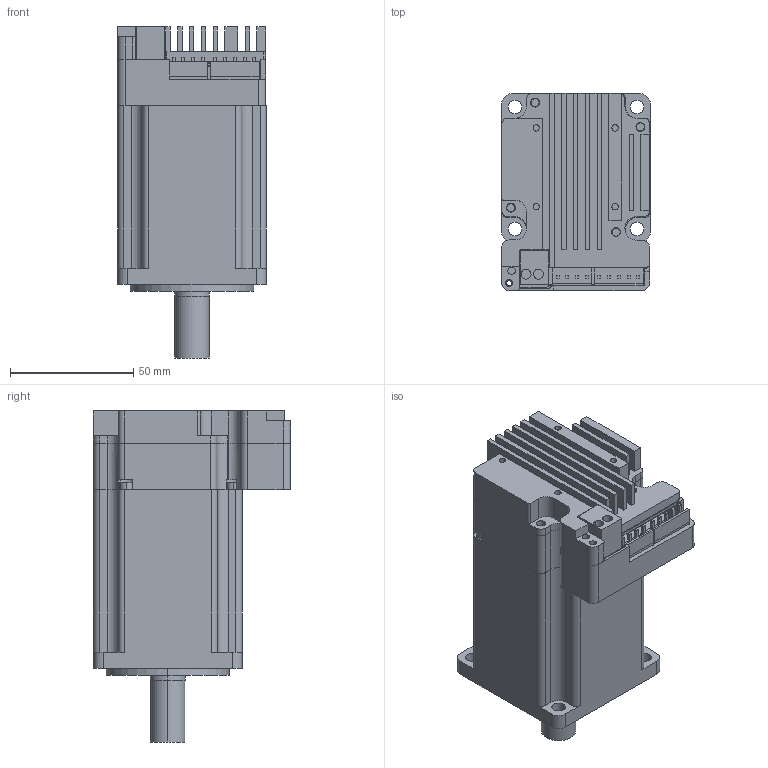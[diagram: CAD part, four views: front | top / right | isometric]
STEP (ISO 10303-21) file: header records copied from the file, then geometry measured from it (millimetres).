
FILE_DESCRIPTION (( 'STEP AP214' ), '1' );
FILE_NAME ('FC24P60400W_VH.STEP', '2025-05-16T02:21:31', ( 'shaun' ), ( '' ), 'SwSTEP 2.0', 'SolidWorks 2020', '' );
FILE_SCHEMA (( 'AUTOMOTIVE_DESIGN' ));
Length unit declared in the file: millimetre
Products named in the file (7): FC24P60400W_VH; 400W; SERVO60_V008_LOWER_D; WHOLECONTROLLER_VH_VERTICALCON; SERVO60_V008_UPPER_H; SERVO60_CONTROLLER_VH; SERVO60_DRIVER_VERTICAL_POWERCON
Assembly tree (6 placements, depth 3):
  FC24P60400W_VH
    400W
    WHOLECONTROLLER_VH_VERTICALCON
      SERVO60_CONTROLLER_VH
      SERVO60_DRIVER_VERTICAL_POWERCON
      SERVO60_V008_LOWER_D
      SERVO60_V008_UPPER_H
Bounding box: 60.3 x 80 x 134.77 mm (x, y, z)
Volume: 309509 mm3; surface area: 111324.6 mm2
Topology: 211 solids, 211 shells, 2131 faces, 5062 edges, 3373 vertices
Faces by surface type: cylinder 1188, plane 943
Entity records: 84141 total; most frequent: DIRECTION 11726, CARTESIAN_POINT 10590, ORIENTED_EDGE 10124, EDGE_CURVE 5062, AXIS2_PLACEMENT_3D 4527, VERTEX_POINT 3373, VECTOR 2672, LINE 2672
